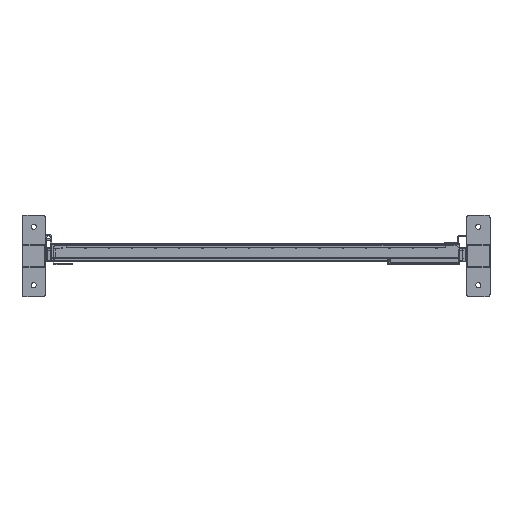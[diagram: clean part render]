
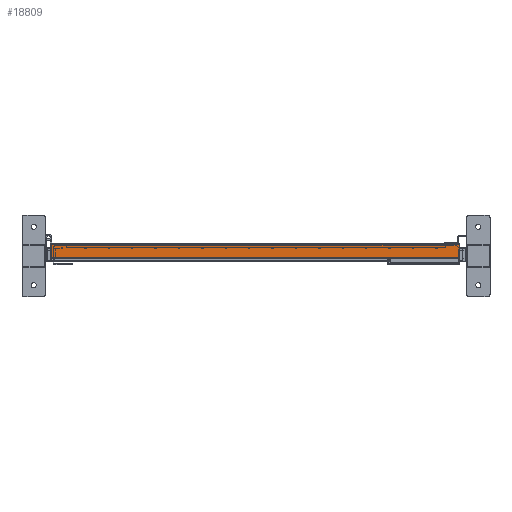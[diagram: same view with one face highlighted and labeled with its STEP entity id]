
A CAD part, front view. The second image highlights one B-rep face of the part: STEP entity #18809.
In plain terms, the highlighted planar face has unit normal (0, -1, 0) as drawn and (0, 1, 0) by its records, which use the part's own axes.
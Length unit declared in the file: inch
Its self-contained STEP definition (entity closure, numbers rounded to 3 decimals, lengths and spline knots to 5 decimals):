
#905 = LINE ( 'NONE', #19447, #1205 ) ;
#1205 = VECTOR ( 'NONE', #3367, 39.37008 ) ;
#1907 = VERTEX_POINT ( 'NONE', #20341 ) ;
#2467 = AXIS2_PLACEMENT_3D ( 'NONE', #16715, #12898, #14926 ) ;
#2782 = ORIENTED_EDGE ( 'NONE', *, *, #8926, .T. ) ;
#2961 = ORIENTED_EDGE ( 'NONE', *, *, #5905, .T. ) ;
#3011 = DIRECTION ( 'NONE',  ( 1., 0., 0. ) ) ;
#3367 = DIRECTION ( 'NONE',  ( 0., 0., 1. ) ) ;
#4379 = CARTESIAN_POINT ( 'NONE',  ( 17.4375, 0., -0.03125 ) ) ;
#5905 = EDGE_CURVE ( 'NONE', #5974, #23523, #23443, .T. ) ;
#5974 = VERTEX_POINT ( 'NONE', #23046 ) ;
#8926 = EDGE_CURVE ( 'NONE', #23523, #23005, #25894, .T. ) ;
#9447 = VECTOR ( 'NONE', #3011, 39.37008 ) ;
#10207 = ORIENTED_EDGE ( 'NONE', *, *, #21765, .F. ) ;
#12898 = DIRECTION ( 'NONE',  ( 0., -1., 0. ) ) ;
#13179 = VECTOR ( 'NONE', #25213, 39.37008 ) ;
#14926 = DIRECTION ( 'NONE',  ( 0., 0., -1. ) ) ;
#15789 = DIRECTION ( 'NONE',  ( -1., 0., 0. ) ) ;
#16715 = CARTESIAN_POINT ( 'NONE',  ( 17.4375, 0., 0. ) ) ;
#17728 = LINE ( 'NONE', #20019, #23356 ) ;
#17996 = FACE_OUTER_BOUND ( 'NONE', #25581, .T. ) ;
#18767 = EDGE_CURVE ( 'NONE', #1907, #5974, #17728, .T. ) ;
#18809 = ADVANCED_FACE ( 'NONE', ( #17996 ), #21940, .F. ) ;
#19447 = CARTESIAN_POINT ( 'NONE',  ( 17.4375, 0., 0. ) ) ;
#20019 = CARTESIAN_POINT ( 'NONE',  ( 17.4375, 0., -1.25 ) ) ;
#20341 = CARTESIAN_POINT ( 'NONE',  ( 17.4375, 0., -1.25 ) ) ;
#20552 = ORIENTED_EDGE ( 'NONE', *, *, #18767, .T. ) ;
#21765 = EDGE_CURVE ( 'NONE', #1907, #23005, #905, .T. ) ;
#21934 = CARTESIAN_POINT ( 'NONE',  ( 17.4375, 0., -0.03125 ) ) ;
#21940 = PLANE ( 'NONE',  #2467 ) ;
#23005 = VERTEX_POINT ( 'NONE', #4379 ) ;
#23046 = CARTESIAN_POINT ( 'NONE',  ( -17.4375, 0., -1.25 ) ) ;
#23356 = VECTOR ( 'NONE', #15789, 39.37008 ) ;
#23443 = LINE ( 'NONE', #25627, #13179 ) ;
#23523 = VERTEX_POINT ( 'NONE', #25554 ) ;
#25213 = DIRECTION ( 'NONE',  ( 0., 0., 1. ) ) ;
#25554 = CARTESIAN_POINT ( 'NONE',  ( -17.4375, 0., -0.03125 ) ) ;
#25581 = EDGE_LOOP ( 'NONE', ( #2961, #2782, #10207, #20552 ) ) ;
#25627 = CARTESIAN_POINT ( 'NONE',  ( -17.4375, 0., 0. ) ) ;
#25894 = LINE ( 'NONE', #21934, #9447 ) ;
